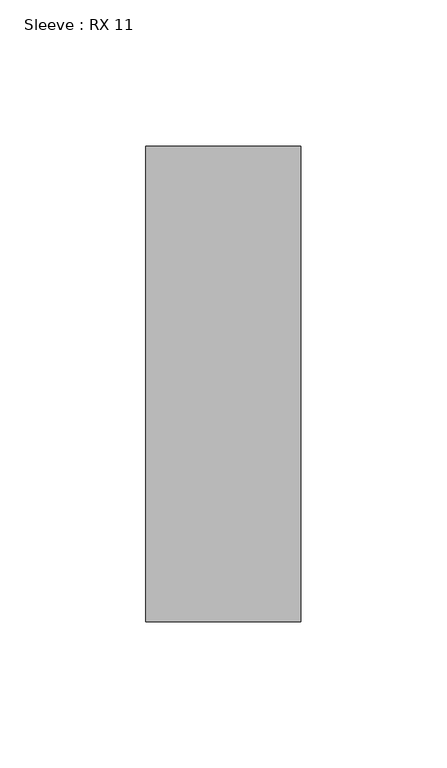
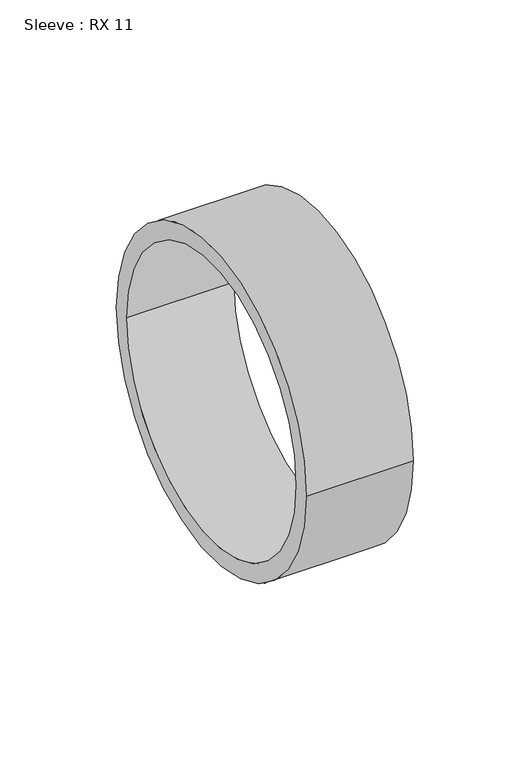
"""IFC4 building model written with IfcOpenShell, lengths in millimetres: pipe fitting geometry, Sleeve : RX 11."""

from ifc_helpers import new_model, si_unit, point, frame, origin, origin_2d, place, context, project, spatial, circle_curve, trimmed, segment, composite_curve, outline, extrude, source, transform, mapped, element, save


def sleeve_rx_11_cce1b402(model_context):
    return source(origin(), model_context, "Body", "SweptSolid", [
        extrude(outline(composite_curve([segment(trimmed(circle_curve(origin_2d(), 81.5), [point((-81.5, 0.0))], [point((81.5, 0.0))], False, "CARTESIAN"), True, "CONTINUOUS"), segment(trimmed(circle_curve(origin_2d(), 81.5), [point((81.5, 0.0))], [point((-81.5, 0.0))], False, "CARTESIAN"), True, "CONTINUOUS")], self_intersect=False), holes=[composite_curve([segment(trimmed(circle_curve(origin_2d(), 72.6), [point((-72.6, 0.0))], [point((72.6, 0.0))], True, "CARTESIAN"), True, "CONTINUOUS"), segment(trimmed(circle_curve(origin_2d(), 72.6), [point((72.6, 0.0))], [point((-72.6, 0.0))], True, "CARTESIAN"), True, "CONTINUOUS")], self_intersect=False)]), frame((0.0, 0.0, 0.0), z_axis=(1.0, 0.0, 0.0), x_axis=(0.0, 1.0, 0.0)), (0.0, 0.0, 1.0), 53.0),
    ])


if __name__ == "__main__":
    model = new_model("IFC4")
    model_context = context("Model", 3, world=origin())
    ifc_project = project(units=[si_unit("LENGTHUNIT", "METRE", prefix="MILLI")], contexts=[model_context])
    site = spatial("IfcSite", under=ifc_project)
    building = spatial("IfcBuilding", under=site)
    placement = place(None, origin())
    sleeve_rx_11_shape = sleeve_rx_11_cce1b402(model_context)
    element("IfcPipeFitting", 1, ObjectType="Sleeve : RX 11", at=placement, inside=building, context=model_context, shape_type="MappedRepresentation", body=[
        mapped(sleeve_rx_11_shape, transform((0.0, 0.0, 0.0), x_axis=(1.0, 0.0, 0.0), y_axis=(0.0, 1.0, 0.0), z_axis=(0.0, 0.0, 1.0))),
    ])
    save(model, "model.ifc")
